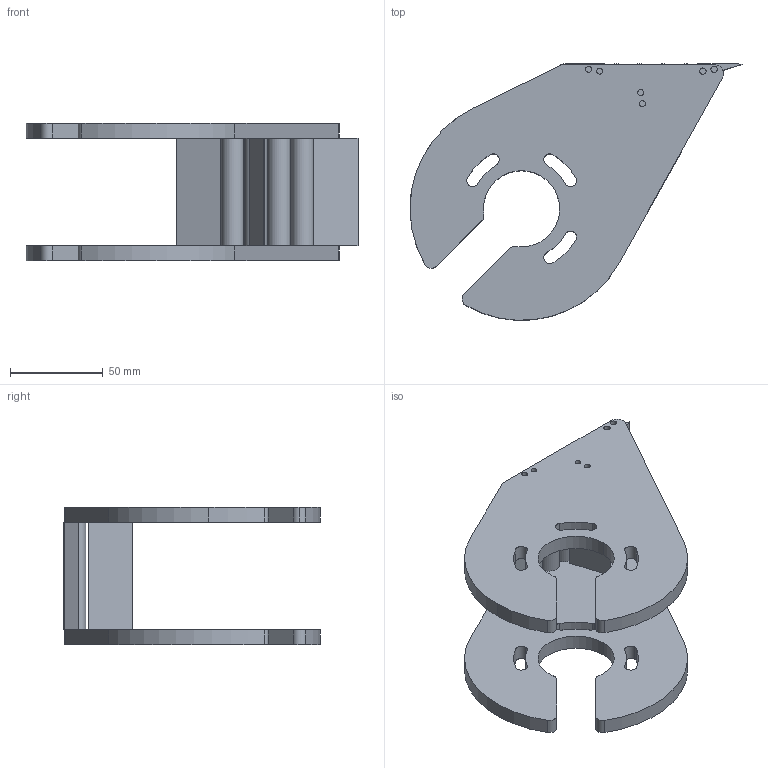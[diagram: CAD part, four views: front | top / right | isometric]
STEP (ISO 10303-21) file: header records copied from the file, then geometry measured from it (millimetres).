
FILE_DESCRIPTION (( 'STEP AP214' ), '1' );
FILE_NAME ('FKTB A45FI.STEP', '2024-01-31T08:47:42', ( '' ), ( '' ), 'SwSTEP 2.0', 'SolidWorks 2022', '' );
FILE_SCHEMA (( 'AUTOMOTIVE_DESIGN' ));
Length unit declared in the file: millimetre
Products named in the file (1): FKTB A45FI
Bounding box: 178.53 x 138.03 x 73.8 mm (x, y, z)
Volume: 248307 mm3; surface area: 83620.2 mm2
Topology: 1 solids, 1 shells, 194 faces, 538 edges, 348 vertices
Faces by surface type: cylinder 112, plane 74, cone 8
Entity records: 6800 total; most frequent: DIRECTION 1180, CARTESIAN_POINT 1081, ORIENTED_EDGE 1076, EDGE_CURVE 538, AXIS2_PLACEMENT_3D 447, VERTEX_POINT 348, LINE 286, VECTOR 286
